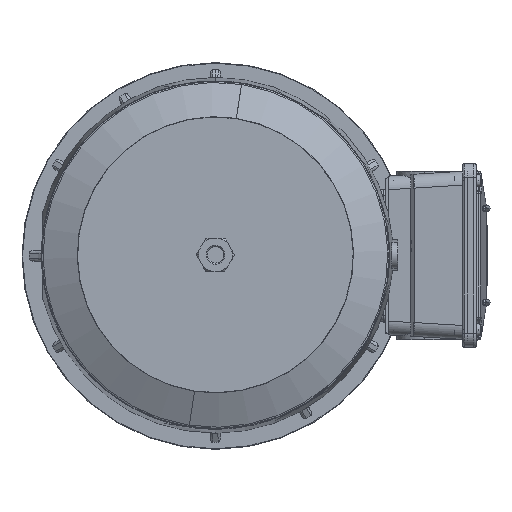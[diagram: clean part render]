
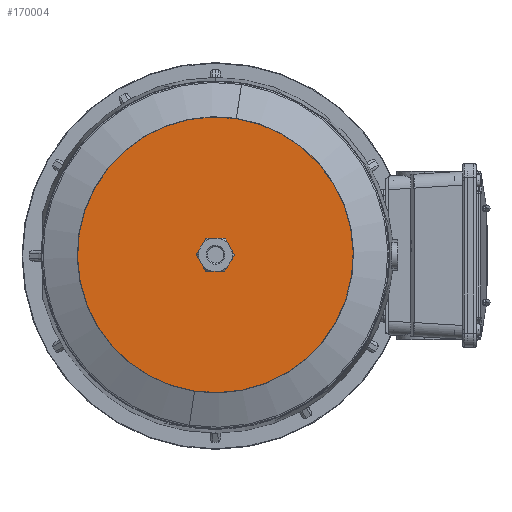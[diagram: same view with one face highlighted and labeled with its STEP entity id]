
A CAD part, top view. The second image highlights one B-rep face of the part: STEP entity #170004.
In plain terms, the highlighted planar face has unit normal (0, 0, 1) as drawn and (0, -1, 0) by its records, which use the part's own axes.
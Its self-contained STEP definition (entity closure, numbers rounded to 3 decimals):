
#2232 = VERTEX_POINT ( 'NONE', #32284 ) ;
#3828 = ORIENTED_EDGE ( 'NONE', *, *, #18728, .T. ) ;
#4835 = VERTEX_POINT ( 'NONE', #117662 ) ;
#5161 = DIRECTION ( 'NONE',  ( 0., 1., 0. ) ) ;
#9515 = DIRECTION ( 'NONE',  ( 0., 0., 1. ) ) ;
#18728 = EDGE_CURVE ( 'NONE', #105139, #156875, #164057, .T. ) ;
#21957 = ORIENTED_EDGE ( 'NONE', *, *, #80277, .F. ) ;
#30504 = CARTESIAN_POINT ( 'NONE',  ( 0., 0., 0. ) ) ;
#32284 = CARTESIAN_POINT ( 'NONE',  ( 0., 0., -125. ) ) ;
#47070 = DIRECTION ( 'NONE',  ( 0., 0., 1. ) ) ;
#64276 = DIRECTION ( 'NONE',  ( 0., 1., 0. ) ) ;
#71816 = EDGE_CURVE ( 'NONE', #156875, #105139, #81143, .T. ) ;
#74752 = DIRECTION ( 'NONE',  ( 0., 0., -1. ) ) ;
#80277 = EDGE_CURVE ( 'NONE', #4835, #2232, #187456, .T. ) ;
#81143 = CIRCLE ( 'NONE', #111020, 13.5 ) ;
#81999 = EDGE_CURVE ( 'NONE', #2232, #4835, #202579, .T. ) ;
#85059 = AXIS2_PLACEMENT_3D ( 'NONE', #206737, #108171, #9515 ) ;
#101205 = EDGE_LOOP ( 'NONE', ( #112916, #3828 ) ) ;
#103818 = CARTESIAN_POINT ( 'NONE',  ( 0., 0., 0. ) ) ;
#105139 = VERTEX_POINT ( 'NONE', #181658 ) ;
#107154 = CARTESIAN_POINT ( 'NONE',  ( -13.5, 0., 0. ) ) ;
#108171 = DIRECTION ( 'NONE',  ( 0., 1., 0. ) ) ;
#111020 = AXIS2_PLACEMENT_3D ( 'NONE', #162826, #64276, #179406 ) ;
#111471 = FACE_OUTER_BOUND ( 'NONE', #211831, .T. ) ;
#112916 = ORIENTED_EDGE ( 'NONE', *, *, #71816, .T. ) ;
#117662 = CARTESIAN_POINT ( 'NONE',  ( 0., 0., 125. ) ) ;
#120357 = DIRECTION ( 'NONE',  ( 0., 0., 1. ) ) ;
#140828 = ORIENTED_EDGE ( 'NONE', *, *, #81999, .F. ) ;
#144218 = CARTESIAN_POINT ( 'NONE',  ( 0., 0., 13.5 ) ) ;
#145660 = DIRECTION ( 'NONE',  ( 0., 1., 0. ) ) ;
#156743 = PLANE ( 'NONE',  #210896 ) ;
#156875 = VERTEX_POINT ( 'NONE', #144218 ) ;
#161773 = AXIS2_PLACEMENT_3D ( 'NONE', #30504, #145660, #47070 ) ;
#162826 = CARTESIAN_POINT ( 'NONE',  ( 0., 0., 0. ) ) ;
#164057 = CIRCLE ( 'NONE', #85059, 13.5 ) ;
#170004 = ADVANCED_FACE ( 'NONE', ( #199029, #111471 ), #156743, .T. ) ;
#173274 = DIRECTION ( 'NONE',  ( 0., -1., 0. ) ) ;
#179406 = DIRECTION ( 'NONE',  ( 0., 0., 1. ) ) ;
#181658 = CARTESIAN_POINT ( 'NONE',  ( 0., 0., -13.5 ) ) ;
#187456 = CIRCLE ( 'NONE', #161773, 125. ) ;
#189498 = AXIS2_PLACEMENT_3D ( 'NONE', #103818, #5161, #120357 ) ;
#199029 = FACE_BOUND ( 'NONE', #101205, .T. ) ;
#202579 = CIRCLE ( 'NONE', #189498, 125. ) ;
#206737 = CARTESIAN_POINT ( 'NONE',  ( 0., 0., 0. ) ) ;
#210896 = AXIS2_PLACEMENT_3D ( 'NONE', #107154, #173274, #74752 ) ;
#211831 = EDGE_LOOP ( 'NONE', ( #21957, #140828 ) ) ;
